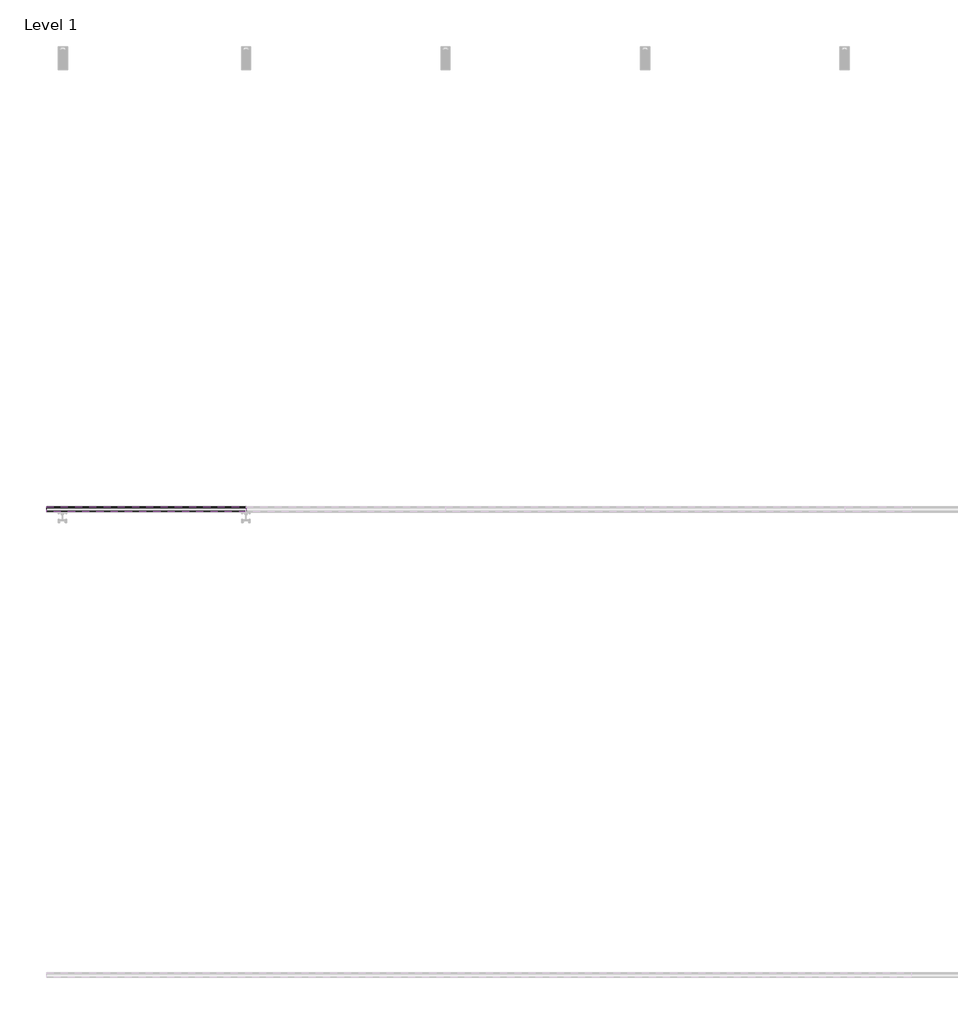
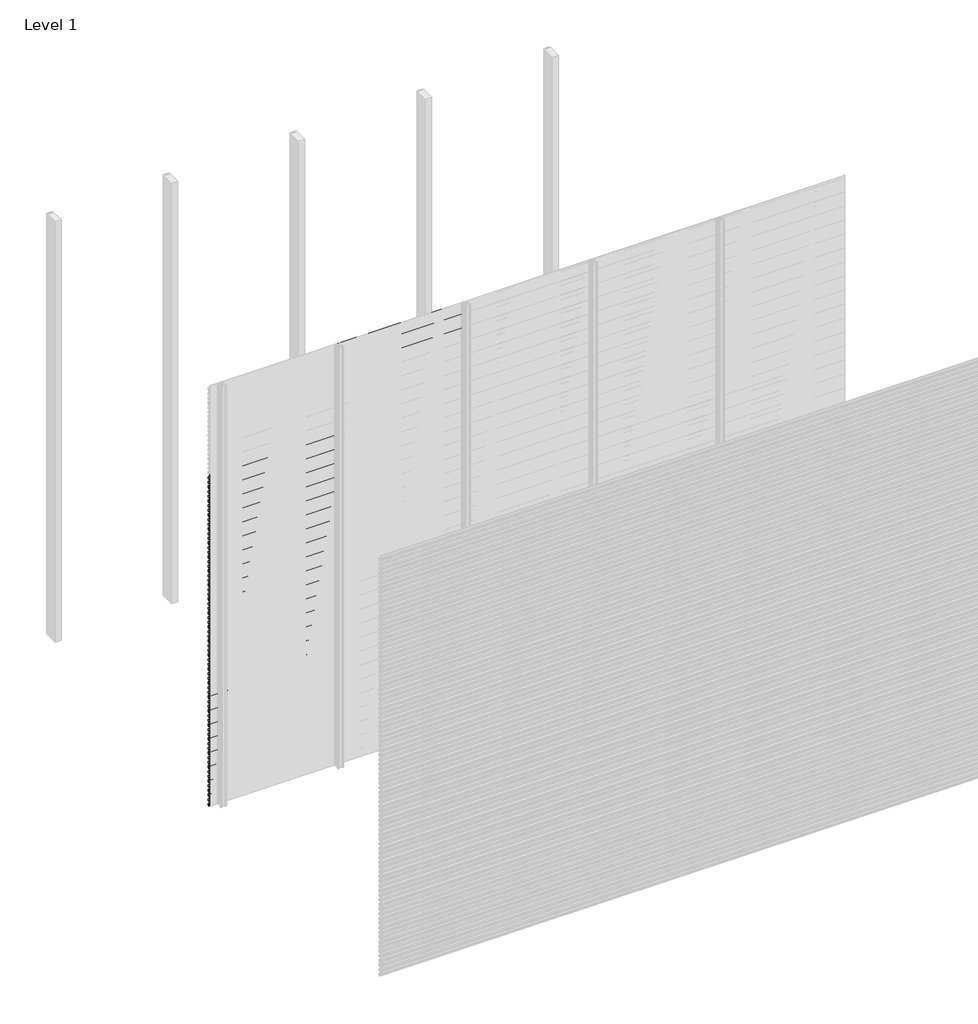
# One storey, part 24 of 96: 77 proxies.
"""IFC4 building model written with IfcOpenShell, lengths in millimetres."""

from ifc_helpers import new_model, si_unit, frame, origin, place, context, project, spatial, polyline, outline, extrude, element, save

model = new_model("IFC4")

# Units and contexts
model_context = context("Model", 3, world=origin())
ifc_project = project(units=[si_unit("LENGTHUNIT", "METRE", prefix="MILLI")], contexts=[model_context])

# Site, building, storey
site = spatial("IfcSite", under=ifc_project)
building = spatial("IfcBuilding", under=site)
storey = spatial("IfcBuildingStorey", under=building, Name="Level 1", Elevation=0.0)

# Proxies
placement = place(None, origin())
element("IfcBuildingElementProxy", 1, Name="Wall Sweeps", at=placement, inside=storey, context=model_context, shape_type="SweptSolid", body=[
    extrude(outline(polyline([(-41977.6, 2339.0655033), (-41977.6, 2324.7779188), (-41982.4114965, 2322.0), (-41982.4114965, 2323.2701706), (-41978.85, 2325.3264016), (-41978.85, 2338.3437382), (-41998.0, 2349.4000799), (-41998.0, 2364.3), (-41996.75, 2364.3), (-41996.75, 2350.1217609), (-41977.6, 2339.0655033)])), frame((0.0, 0.0, 0.0), z_axis=(1.0, 0.0, 0.0), x_axis=(0.0, 1.0, 0.0)), (0.0, 0.0, 1.0), 857.1428571),
])
element("IfcBuildingElementProxy", 2, Name="Wall Sweeps", at=placement, inside=storey, context=model_context, shape_type="SweptSolid", body=[
    extrude(outline(polyline([(-41977.6, 2305.7655033), (-41977.6, 2291.4779188), (-41982.4114965, 2288.7), (-41982.4114965, 2289.9701706), (-41978.85, 2292.0264016), (-41978.85, 2305.0437382), (-41998.0, 2316.1000799), (-41998.0, 2331.0), (-41996.75, 2331.0), (-41996.75, 2316.8217609), (-41977.6, 2305.7655033)])), frame((0.0, 0.0, 0.0), z_axis=(1.0, 0.0, 0.0), x_axis=(0.0, 1.0, 0.0)), (0.0, 0.0, 1.0), 857.1428571),
])
element("IfcBuildingElementProxy", 3, Name="Wall Sweeps", at=placement, inside=storey, context=model_context, shape_type="SweptSolid", body=[
    extrude(outline(polyline([(-41977.6, 2272.4655033), (-41977.6, 2258.1779188), (-41982.4114965, 2255.4), (-41982.4114965, 2256.6701706), (-41978.85, 2258.7264016), (-41978.85, 2271.7437382), (-41998.0, 2282.8000799), (-41998.0, 2297.7), (-41996.75, 2297.7), (-41996.75, 2283.5217609), (-41977.6, 2272.4655033)])), frame((0.0, 0.0, 0.0), z_axis=(1.0, 0.0, 0.0), x_axis=(0.0, 1.0, 0.0)), (0.0, 0.0, 1.0), 857.1428571),
])
element("IfcBuildingElementProxy", 4, Name="Wall Sweeps", at=placement, inside=storey, context=model_context, shape_type="SweptSolid", body=[
    extrude(outline(polyline([(-41977.6, 2239.1655033), (-41977.6, 2224.8779188), (-41982.4114965, 2222.1), (-41982.4114965, 2223.3701706), (-41978.85, 2225.4264016), (-41978.85, 2238.4437382), (-41998.0, 2249.5000799), (-41998.0, 2264.4), (-41996.75, 2264.4), (-41996.75, 2250.2217609), (-41977.6, 2239.1655033)])), frame((0.0, 0.0, 0.0), z_axis=(1.0, 0.0, 0.0), x_axis=(0.0, 1.0, 0.0)), (0.0, 0.0, 1.0), 857.1428571),
])
element("IfcBuildingElementProxy", 5, Name="Wall Sweeps", at=placement, inside=storey, context=model_context, shape_type="SweptSolid", body=[
    extrude(outline(polyline([(-41977.6, 2205.8655033), (-41977.6, 2191.5779188), (-41982.4114965, 2188.8), (-41982.4114965, 2190.0701706), (-41978.85, 2192.1264016), (-41978.85, 2205.1437382), (-41998.0, 2216.2000799), (-41998.0, 2231.1), (-41996.75, 2231.1), (-41996.75, 2216.9217609), (-41977.6, 2205.8655033)])), frame((0.0, 0.0, 0.0), z_axis=(1.0, 0.0, 0.0), x_axis=(0.0, 1.0, 0.0)), (0.0, 0.0, 1.0), 857.1428571),
])
element("IfcBuildingElementProxy", 6, Name="Wall Sweeps", at=placement, inside=storey, context=model_context, shape_type="SweptSolid", body=[
    extrude(outline(polyline([(-41977.6, 2172.5655033), (-41977.6, 2158.2779188), (-41982.4114965, 2155.5), (-41982.4114965, 2156.7701706), (-41978.85, 2158.8264016), (-41978.85, 2171.8437382), (-41998.0, 2182.9000799), (-41998.0, 2197.8), (-41996.75, 2197.8), (-41996.75, 2183.6217609), (-41977.6, 2172.5655033)])), frame((0.0, 0.0, 0.0), z_axis=(1.0, 0.0, 0.0), x_axis=(0.0, 1.0, 0.0)), (0.0, 0.0, 1.0), 857.1428571),
])
element("IfcBuildingElementProxy", 7, Name="Wall Sweeps", at=placement, inside=storey, context=model_context, shape_type="SweptSolid", body=[
    extrude(outline(polyline([(-41977.6, 2139.2655033), (-41977.6, 2124.9779188), (-41982.4114965, 2122.2), (-41982.4114965, 2123.4701706), (-41978.85, 2125.5264016), (-41978.85, 2138.5437382), (-41998.0, 2149.6000799), (-41998.0, 2164.5), (-41996.75, 2164.5), (-41996.75, 2150.3217609), (-41977.6, 2139.2655033)])), frame((0.0, 0.0, 0.0), z_axis=(1.0, 0.0, 0.0), x_axis=(0.0, 1.0, 0.0)), (0.0, 0.0, 1.0), 857.1428571),
])
element("IfcBuildingElementProxy", 8, Name="Wall Sweeps", at=placement, inside=storey, context=model_context, shape_type="SweptSolid", body=[
    extrude(outline(polyline([(-41977.6, 2105.9655033), (-41977.6, 2091.6779188), (-41982.4114965, 2088.9), (-41982.4114965, 2090.1701706), (-41978.85, 2092.2264016), (-41978.85, 2105.2437382), (-41998.0, 2116.3000799), (-41998.0, 2131.2), (-41996.75, 2131.2), (-41996.75, 2117.0217609), (-41977.6, 2105.9655033)])), frame((0.0, 0.0, 0.0), z_axis=(1.0, 0.0, 0.0), x_axis=(0.0, 1.0, 0.0)), (0.0, 0.0, 1.0), 857.1428571),
])
element("IfcBuildingElementProxy", 9, Name="Wall Sweeps", at=placement, inside=storey, context=model_context, shape_type="SweptSolid", body=[
    extrude(outline(polyline([(-41977.6, 2072.6655033), (-41977.6, 2058.3779188), (-41982.4114965, 2055.6), (-41982.4114965, 2056.8701706), (-41978.85, 2058.9264016), (-41978.85, 2071.9437382), (-41998.0, 2083.0000799), (-41998.0, 2097.9), (-41996.75, 2097.9), (-41996.75, 2083.7217609), (-41977.6, 2072.6655033)])), frame((0.0, 0.0, 0.0), z_axis=(1.0, 0.0, 0.0), x_axis=(0.0, 1.0, 0.0)), (0.0, 0.0, 1.0), 857.1428571),
])
element("IfcBuildingElementProxy", 10, Name="Wall Sweeps", at=placement, inside=storey, context=model_context, shape_type="SweptSolid", body=[
    extrude(outline(polyline([(-41977.6, 2039.3655033), (-41977.6, 2025.0779188), (-41982.4114965, 2022.3), (-41982.4114965, 2023.5701706), (-41978.85, 2025.6264016), (-41978.85, 2038.6437382), (-41998.0, 2049.7000799), (-41998.0, 2064.6), (-41996.75, 2064.6), (-41996.75, 2050.4217609), (-41977.6, 2039.3655033)])), frame((0.0, 0.0, 0.0), z_axis=(1.0, 0.0, 0.0), x_axis=(0.0, 1.0, 0.0)), (0.0, 0.0, 1.0), 857.1428571),
])
element("IfcBuildingElementProxy", 11, Name="Wall Sweeps", at=placement, inside=storey, context=model_context, shape_type="SweptSolid", body=[
    extrude(outline(polyline([(-41977.6, 2006.0655033), (-41977.6, 1991.7779188), (-41982.4114965, 1989.0), (-41982.4114965, 1990.2701706), (-41978.85, 1992.3264016), (-41978.85, 2005.3437382), (-41998.0, 2016.4000799), (-41998.0, 2031.3), (-41996.75, 2031.3), (-41996.75, 2017.1217609), (-41977.6, 2006.0655033)])), frame((0.0, 0.0, 0.0), z_axis=(1.0, 0.0, 0.0), x_axis=(0.0, 1.0, 0.0)), (0.0, 0.0, 1.0), 857.1428571),
])
element("IfcBuildingElementProxy", 12, Name="Wall Sweeps", at=placement, inside=storey, context=model_context, shape_type="SweptSolid", body=[
    extrude(outline(polyline([(-41977.6, 1972.7655033), (-41977.6, 1958.4779188), (-41982.4114965, 1955.7), (-41982.4114965, 1956.9701706), (-41978.85, 1959.0264016), (-41978.85, 1972.0437382), (-41998.0, 1983.1000799), (-41998.0, 1998.0), (-41996.75, 1998.0), (-41996.75, 1983.8217609), (-41977.6, 1972.7655033)])), frame((0.0, 0.0, 0.0), z_axis=(1.0, 0.0, 0.0), x_axis=(0.0, 1.0, 0.0)), (0.0, 0.0, 1.0), 857.1428571),
])
element("IfcBuildingElementProxy", 13, Name="Wall Sweeps", at=placement, inside=storey, context=model_context, shape_type="SweptSolid", body=[
    extrude(outline(polyline([(-41977.6, 1939.4655033), (-41977.6, 1925.1779188), (-41982.4114965, 1922.4), (-41982.4114965, 1923.6701706), (-41978.85, 1925.7264016), (-41978.85, 1938.7437382), (-41998.0, 1949.8000799), (-41998.0, 1964.7), (-41996.75, 1964.7), (-41996.75, 1950.5217609), (-41977.6, 1939.4655033)])), frame((0.0, 0.0, 0.0), z_axis=(1.0, 0.0, 0.0), x_axis=(0.0, 1.0, 0.0)), (0.0, 0.0, 1.0), 857.1428571),
])
element("IfcBuildingElementProxy", 14, Name="Wall Sweeps", at=placement, inside=storey, context=model_context, shape_type="SweptSolid", body=[
    extrude(outline(polyline([(-41977.6, 1906.1655033), (-41977.6, 1891.8779188), (-41982.4114965, 1889.1), (-41982.4114965, 1890.3701706), (-41978.85, 1892.4264016), (-41978.85, 1905.4437382), (-41998.0, 1916.5000799), (-41998.0, 1931.4), (-41996.75, 1931.4), (-41996.75, 1917.2217609), (-41977.6, 1906.1655033)])), frame((0.0, 0.0, 0.0), z_axis=(1.0, 0.0, 0.0), x_axis=(0.0, 1.0, 0.0)), (0.0, 0.0, 1.0), 857.1428571),
])
element("IfcBuildingElementProxy", 15, Name="Wall Sweeps", at=placement, inside=storey, context=model_context, shape_type="SweptSolid", body=[
    extrude(outline(polyline([(-41977.6, 1872.8655033), (-41977.6, 1858.5779188), (-41982.4114965, 1855.8), (-41982.4114965, 1857.0701706), (-41978.85, 1859.1264016), (-41978.85, 1872.1437382), (-41998.0, 1883.2000799), (-41998.0, 1898.1), (-41996.75, 1898.1), (-41996.75, 1883.9217609), (-41977.6, 1872.8655033)])), frame((0.0, 0.0, 0.0), z_axis=(1.0, 0.0, 0.0), x_axis=(0.0, 1.0, 0.0)), (0.0, 0.0, 1.0), 857.1428571),
])
element("IfcBuildingElementProxy", 16, Name="Wall Sweeps", at=placement, inside=storey, context=model_context, shape_type="SweptSolid", body=[
    extrude(outline(polyline([(-41977.6, 1839.5655033), (-41977.6, 1825.2779188), (-41982.4114965, 1822.5), (-41982.4114965, 1823.7701706), (-41978.85, 1825.8264016), (-41978.85, 1838.8437382), (-41998.0, 1849.9000799), (-41998.0, 1864.8), (-41996.75, 1864.8), (-41996.75, 1850.6217609), (-41977.6, 1839.5655033)])), frame((0.0, 0.0, 0.0), z_axis=(1.0, 0.0, 0.0), x_axis=(0.0, 1.0, 0.0)), (0.0, 0.0, 1.0), 857.1428571),
])
element("IfcBuildingElementProxy", 17, Name="Wall Sweeps", at=placement, inside=storey, context=model_context, shape_type="SweptSolid", body=[
    extrude(outline(polyline([(-41977.6, 1806.2655033), (-41977.6, 1791.9779188), (-41982.4114965, 1789.2), (-41982.4114965, 1790.4701706), (-41978.85, 1792.5264016), (-41978.85, 1805.5437382), (-41998.0, 1816.6000799), (-41998.0, 1831.5), (-41996.75, 1831.5), (-41996.75, 1817.3217609), (-41977.6, 1806.2655033)])), frame((0.0, 0.0, 0.0), z_axis=(1.0, 0.0, 0.0), x_axis=(0.0, 1.0, 0.0)), (0.0, 0.0, 1.0), 857.1428571),
])
element("IfcBuildingElementProxy", 18, Name="Wall Sweeps", at=placement, inside=storey, context=model_context, shape_type="SweptSolid", body=[
    extrude(outline(polyline([(-41977.6, 1772.9655033), (-41977.6, 1758.6779188), (-41982.4114965, 1755.9), (-41982.4114965, 1757.1701706), (-41978.85, 1759.2264016), (-41978.85, 1772.2437382), (-41998.0, 1783.3000799), (-41998.0, 1798.2), (-41996.75, 1798.2), (-41996.75, 1784.0217609), (-41977.6, 1772.9655033)])), frame((0.0, 0.0, 0.0), z_axis=(1.0, 0.0, 0.0), x_axis=(0.0, 1.0, 0.0)), (0.0, 0.0, 1.0), 857.1428571),
])
element("IfcBuildingElementProxy", 19, Name="Wall Sweeps", at=placement, inside=storey, context=model_context, shape_type="SweptSolid", body=[
    extrude(outline(polyline([(-41977.6, 1739.6655033), (-41977.6, 1725.3779188), (-41982.4114965, 1722.6), (-41982.4114965, 1723.8701706), (-41978.85, 1725.9264016), (-41978.85, 1738.9437382), (-41998.0, 1750.0000799), (-41998.0, 1764.9), (-41996.75, 1764.9), (-41996.75, 1750.7217609), (-41977.6, 1739.6655033)])), frame((0.0, 0.0, 0.0), z_axis=(1.0, 0.0, 0.0), x_axis=(0.0, 1.0, 0.0)), (0.0, 0.0, 1.0), 857.1428571),
])
element("IfcBuildingElementProxy", 20, Name="Wall Sweeps", at=placement, inside=storey, context=model_context, shape_type="SweptSolid", body=[
    extrude(outline(polyline([(-41977.6, 1706.3655033), (-41977.6, 1692.0779188), (-41982.4114965, 1689.3), (-41982.4114965, 1690.5701706), (-41978.85, 1692.6264016), (-41978.85, 1705.6437382), (-41998.0, 1716.7000799), (-41998.0, 1731.6), (-41996.75, 1731.6), (-41996.75, 1717.4217609), (-41977.6, 1706.3655033)])), frame((0.0, 0.0, 0.0), z_axis=(1.0, 0.0, 0.0), x_axis=(0.0, 1.0, 0.0)), (0.0, 0.0, 1.0), 857.1428571),
])
element("IfcBuildingElementProxy", 21, Name="Wall Sweeps", at=placement, inside=storey, context=model_context, shape_type="SweptSolid", body=[
    extrude(outline(polyline([(-41977.6, 1673.0655033), (-41977.6, 1658.7779188), (-41982.4114965, 1656.0), (-41982.4114965, 1657.2701706), (-41978.85, 1659.3264016), (-41978.85, 1672.3437382), (-41998.0, 1683.4000799), (-41998.0, 1698.3), (-41996.75, 1698.3), (-41996.75, 1684.1217609), (-41977.6, 1673.0655033)])), frame((0.0, 0.0, 0.0), z_axis=(1.0, 0.0, 0.0), x_axis=(0.0, 1.0, 0.0)), (0.0, 0.0, 1.0), 857.1428571),
])
element("IfcBuildingElementProxy", 22, Name="Wall Sweeps", at=placement, inside=storey, context=model_context, shape_type="SweptSolid", body=[
    extrude(outline(polyline([(-41977.6, 1639.7655033), (-41977.6, 1625.4779188), (-41982.4114965, 1622.7), (-41982.4114965, 1623.9701706), (-41978.85, 1626.0264016), (-41978.85, 1639.0437382), (-41998.0, 1650.1000799), (-41998.0, 1665.0), (-41996.75, 1665.0), (-41996.75, 1650.8217609), (-41977.6, 1639.7655033)])), frame((0.0, 0.0, 0.0), z_axis=(1.0, 0.0, 0.0), x_axis=(0.0, 1.0, 0.0)), (0.0, 0.0, 1.0), 857.1428571),
])
element("IfcBuildingElementProxy", 23, Name="Wall Sweeps", at=placement, inside=storey, context=model_context, shape_type="SweptSolid", body=[
    extrude(outline(polyline([(-41977.6, 1606.4655033), (-41977.6, 1592.1779188), (-41982.4114965, 1589.4), (-41982.4114965, 1590.6701706), (-41978.85, 1592.7264016), (-41978.85, 1605.7437382), (-41998.0, 1616.8000799), (-41998.0, 1631.7), (-41996.75, 1631.7), (-41996.75, 1617.5217609), (-41977.6, 1606.4655033)])), frame((0.0, 0.0, 0.0), z_axis=(1.0, 0.0, 0.0), x_axis=(0.0, 1.0, 0.0)), (0.0, 0.0, 1.0), 857.1428571),
])
element("IfcBuildingElementProxy", 24, Name="Wall Sweeps", at=placement, inside=storey, context=model_context, shape_type="SweptSolid", body=[
    extrude(outline(polyline([(-41977.6, 1573.1655033), (-41977.6, 1558.8779188), (-41982.4114965, 1556.1), (-41982.4114965, 1557.3701706), (-41978.85, 1559.4264016), (-41978.85, 1572.4437382), (-41998.0, 1583.5000799), (-41998.0, 1598.4), (-41996.75, 1598.4), (-41996.75, 1584.2217609), (-41977.6, 1573.1655033)])), frame((0.0, 0.0, 0.0), z_axis=(1.0, 0.0, 0.0), x_axis=(0.0, 1.0, 0.0)), (0.0, 0.0, 1.0), 857.1428571),
])
element("IfcBuildingElementProxy", 25, Name="Wall Sweeps", at=placement, inside=storey, context=model_context, shape_type="SweptSolid", body=[
    extrude(outline(polyline([(-41977.6, 1539.8655033), (-41977.6, 1525.5779188), (-41982.4114965, 1522.8), (-41982.4114965, 1524.0701706), (-41978.85, 1526.1264016), (-41978.85, 1539.1437382), (-41998.0, 1550.2000799), (-41998.0, 1565.1), (-41996.75, 1565.1), (-41996.75, 1550.9217609), (-41977.6, 1539.8655033)])), frame((0.0, 0.0, 0.0), z_axis=(1.0, 0.0, 0.0), x_axis=(0.0, 1.0, 0.0)), (0.0, 0.0, 1.0), 857.1428571),
])
element("IfcBuildingElementProxy", 26, Name="Wall Sweeps", at=placement, inside=storey, context=model_context, shape_type="SweptSolid", body=[
    extrude(outline(polyline([(-41977.6, 1506.5655033), (-41977.6, 1492.2779188), (-41982.4114965, 1489.5), (-41982.4114965, 1490.7701706), (-41978.85, 1492.8264016), (-41978.85, 1505.8437382), (-41998.0, 1516.9000799), (-41998.0, 1531.8), (-41996.75, 1531.8), (-41996.75, 1517.6217609), (-41977.6, 1506.5655033)])), frame((0.0, 0.0, 0.0), z_axis=(1.0, 0.0, 0.0), x_axis=(0.0, 1.0, 0.0)), (0.0, 0.0, 1.0), 857.1428571),
])
element("IfcBuildingElementProxy", 27, Name="Wall Sweeps", at=placement, inside=storey, context=model_context, shape_type="SweptSolid", body=[
    extrude(outline(polyline([(-41977.6, 1473.2655033), (-41977.6, 1458.9779188), (-41982.4114965, 1456.2), (-41982.4114965, 1457.4701706), (-41978.85, 1459.5264016), (-41978.85, 1472.5437382), (-41998.0, 1483.6000799), (-41998.0, 1498.5), (-41996.75, 1498.5), (-41996.75, 1484.3217609), (-41977.6, 1473.2655033)])), frame((0.0, 0.0, 0.0), z_axis=(1.0, 0.0, 0.0), x_axis=(0.0, 1.0, 0.0)), (0.0, 0.0, 1.0), 857.1428571),
])
element("IfcBuildingElementProxy", 28, Name="Wall Sweeps", at=placement, inside=storey, context=model_context, shape_type="SweptSolid", body=[
    extrude(outline(polyline([(-41977.6, 1439.9655033), (-41977.6, 1425.6779188), (-41982.4114965, 1422.9), (-41982.4114965, 1424.1701706), (-41978.85, 1426.2264016), (-41978.85, 1439.2437382), (-41998.0, 1450.3000799), (-41998.0, 1465.2), (-41996.75, 1465.2), (-41996.75, 1451.0217609), (-41977.6, 1439.9655033)])), frame((0.0, 0.0, 0.0), z_axis=(1.0, 0.0, 0.0), x_axis=(0.0, 1.0, 0.0)), (0.0, 0.0, 1.0), 857.1428571),
])
element("IfcBuildingElementProxy", 29, Name="Wall Sweeps", at=placement, inside=storey, context=model_context, shape_type="SweptSolid", body=[
    extrude(outline(polyline([(-41977.6, 1406.6655033), (-41977.6, 1392.3779188), (-41982.4114965, 1389.6), (-41982.4114965, 1390.8701706), (-41978.85, 1392.9264016), (-41978.85, 1405.9437382), (-41998.0, 1417.0000799), (-41998.0, 1431.9), (-41996.75, 1431.9), (-41996.75, 1417.7217609), (-41977.6, 1406.6655033)])), frame((0.0, 0.0, 0.0), z_axis=(1.0, 0.0, 0.0), x_axis=(0.0, 1.0, 0.0)), (0.0, 0.0, 1.0), 857.1428571),
])
element("IfcBuildingElementProxy", 30, Name="Wall Sweeps", at=placement, inside=storey, context=model_context, shape_type="SweptSolid", body=[
    extrude(outline(polyline([(-41977.6, 1373.3655033), (-41977.6, 1359.0779188), (-41982.4114965, 1356.3), (-41982.4114965, 1357.5701706), (-41978.85, 1359.6264016), (-41978.85, 1372.6437382), (-41998.0, 1383.7000799), (-41998.0, 1398.6), (-41996.75, 1398.6), (-41996.75, 1384.4217609), (-41977.6, 1373.3655033)])), frame((0.0, 0.0, 0.0), z_axis=(1.0, 0.0, 0.0), x_axis=(0.0, 1.0, 0.0)), (0.0, 0.0, 1.0), 857.1428571),
])
element("IfcBuildingElementProxy", 31, Name="Wall Sweeps", at=placement, inside=storey, context=model_context, shape_type="SweptSolid", body=[
    extrude(outline(polyline([(-41977.6, 1340.0655033), (-41977.6, 1325.7779188), (-41982.4114965, 1323.0), (-41982.4114965, 1324.2701706), (-41978.85, 1326.3264016), (-41978.85, 1339.3437382), (-41998.0, 1350.4000799), (-41998.0, 1365.3), (-41996.75, 1365.3), (-41996.75, 1351.1217609), (-41977.6, 1340.0655033)])), frame((0.0, 0.0, 0.0), z_axis=(1.0, 0.0, 0.0), x_axis=(0.0, 1.0, 0.0)), (0.0, 0.0, 1.0), 857.1428571),
])
element("IfcBuildingElementProxy", 32, Name="Wall Sweeps", at=placement, inside=storey, context=model_context, shape_type="SweptSolid", body=[
    extrude(outline(polyline([(-41977.6, 1306.7655033), (-41977.6, 1292.4779188), (-41982.4114965, 1289.7), (-41982.4114965, 1290.9701706), (-41978.85, 1293.0264016), (-41978.85, 1306.0437382), (-41998.0, 1317.1000799), (-41998.0, 1332.0), (-41996.75, 1332.0), (-41996.75, 1317.8217609), (-41977.6, 1306.7655033)])), frame((0.0, 0.0, 0.0), z_axis=(1.0, 0.0, 0.0), x_axis=(0.0, 1.0, 0.0)), (0.0, 0.0, 1.0), 857.1428571),
])
element("IfcBuildingElementProxy", 33, Name="Wall Sweeps", at=placement, inside=storey, context=model_context, shape_type="SweptSolid", body=[
    extrude(outline(polyline([(-41977.6, 1273.4655033), (-41977.6, 1259.1779188), (-41982.4114965, 1256.4), (-41982.4114965, 1257.6701706), (-41978.85, 1259.7264016), (-41978.85, 1272.7437382), (-41998.0, 1283.8000799), (-41998.0, 1298.7), (-41996.75, 1298.7), (-41996.75, 1284.5217609), (-41977.6, 1273.4655033)])), frame((0.0, 0.0, 0.0), z_axis=(1.0, 0.0, 0.0), x_axis=(0.0, 1.0, 0.0)), (0.0, 0.0, 1.0), 857.1428571),
])
element("IfcBuildingElementProxy", 34, Name="Wall Sweeps", at=placement, inside=storey, context=model_context, shape_type="SweptSolid", body=[
    extrude(outline(polyline([(-41977.6, 1240.1655033), (-41977.6, 1225.8779188), (-41982.4114965, 1223.1), (-41982.4114965, 1224.3701706), (-41978.85, 1226.4264016), (-41978.85, 1239.4437382), (-41998.0, 1250.5000799), (-41998.0, 1265.4), (-41996.75, 1265.4), (-41996.75, 1251.2217609), (-41977.6, 1240.1655033)])), frame((0.0, 0.0, 0.0), z_axis=(1.0, 0.0, 0.0), x_axis=(0.0, 1.0, 0.0)), (0.0, 0.0, 1.0), 857.1428571),
])
element("IfcBuildingElementProxy", 35, Name="Wall Sweeps", at=placement, inside=storey, context=model_context, shape_type="SweptSolid", body=[
    extrude(outline(polyline([(-41977.6, 1206.8655033), (-41977.6, 1192.5779188), (-41982.4114965, 1189.8), (-41982.4114965, 1191.0701706), (-41978.85, 1193.1264016), (-41978.85, 1206.1437382), (-41998.0, 1217.2000799), (-41998.0, 1232.1), (-41996.75, 1232.1), (-41996.75, 1217.9217609), (-41977.6, 1206.8655033)])), frame((0.0, 0.0, 0.0), z_axis=(1.0, 0.0, 0.0), x_axis=(0.0, 1.0, 0.0)), (0.0, 0.0, 1.0), 857.1428571),
])
element("IfcBuildingElementProxy", 36, Name="Wall Sweeps", at=placement, inside=storey, context=model_context, shape_type="SweptSolid", body=[
    extrude(outline(polyline([(-41977.6, 1173.5655033), (-41977.6, 1159.2779188), (-41982.4114965, 1156.5), (-41982.4114965, 1157.7701706), (-41978.85, 1159.8264016), (-41978.85, 1172.8437382), (-41998.0, 1183.9000799), (-41998.0, 1198.8), (-41996.75, 1198.8), (-41996.75, 1184.6217609), (-41977.6, 1173.5655033)])), frame((0.0, 0.0, 0.0), z_axis=(1.0, 0.0, 0.0), x_axis=(0.0, 1.0, 0.0)), (0.0, 0.0, 1.0), 857.1428571),
])
element("IfcBuildingElementProxy", 37, Name="Wall Sweeps", at=placement, inside=storey, context=model_context, shape_type="SweptSolid", body=[
    extrude(outline(polyline([(-41977.6, 1140.2655033), (-41977.6, 1125.9779188), (-41982.4114965, 1123.2), (-41982.4114965, 1124.4701706), (-41978.85, 1126.5264016), (-41978.85, 1139.5437382), (-41998.0, 1150.6000799), (-41998.0, 1165.5), (-41996.75, 1165.5), (-41996.75, 1151.3217609), (-41977.6, 1140.2655033)])), frame((0.0, 0.0, 0.0), z_axis=(1.0, 0.0, 0.0), x_axis=(0.0, 1.0, 0.0)), (0.0, 0.0, 1.0), 857.1428571),
])
element("IfcBuildingElementProxy", 38, Name="Wall Sweeps", at=placement, inside=storey, context=model_context, shape_type="SweptSolid", body=[
    extrude(outline(polyline([(-41977.6, 1106.9655033), (-41977.6, 1092.6779188), (-41982.4114965, 1089.9), (-41982.4114965, 1091.1701706), (-41978.85, 1093.2264016), (-41978.85, 1106.2437382), (-41998.0, 1117.3000799), (-41998.0, 1132.2), (-41996.75, 1132.2), (-41996.75, 1118.0217609), (-41977.6, 1106.9655033)])), frame((0.0, 0.0, 0.0), z_axis=(1.0, 0.0, 0.0), x_axis=(0.0, 1.0, 0.0)), (0.0, 0.0, 1.0), 857.1428571),
])
element("IfcBuildingElementProxy", 39, Name="Wall Sweeps", at=placement, inside=storey, context=model_context, shape_type="SweptSolid", body=[
    extrude(outline(polyline([(-41977.6, 1073.6655033), (-41977.6, 1059.3779188), (-41982.4114965, 1056.6), (-41982.4114965, 1057.8701706), (-41978.85, 1059.9264016), (-41978.85, 1072.9437382), (-41998.0, 1084.0000799), (-41998.0, 1098.9), (-41996.75, 1098.9), (-41996.75, 1084.7217609), (-41977.6, 1073.6655033)])), frame((0.0, 0.0, 0.0), z_axis=(1.0, 0.0, 0.0), x_axis=(0.0, 1.0, 0.0)), (0.0, 0.0, 1.0), 857.1428571),
])
element("IfcBuildingElementProxy", 40, Name="Wall Sweeps", at=placement, inside=storey, context=model_context, shape_type="SweptSolid", body=[
    extrude(outline(polyline([(-41977.6, 1040.3655033), (-41977.6, 1026.0779188), (-41982.4114965, 1023.3), (-41982.4114965, 1024.5701706), (-41978.85, 1026.6264016), (-41978.85, 1039.6437382), (-41998.0, 1050.7000799), (-41998.0, 1065.6), (-41996.75, 1065.6), (-41996.75, 1051.4217609), (-41977.6, 1040.3655033)])), frame((0.0, 0.0, 0.0), z_axis=(1.0, 0.0, 0.0), x_axis=(0.0, 1.0, 0.0)), (0.0, 0.0, 1.0), 857.1428571),
])
element("IfcBuildingElementProxy", 41, Name="Wall Sweeps", at=placement, inside=storey, context=model_context, shape_type="SweptSolid", body=[
    extrude(outline(polyline([(-41977.6, 1007.0655033), (-41977.6, 992.7779188), (-41982.4114965, 990.0), (-41982.4114965, 991.2701706), (-41978.85, 993.3264016), (-41978.85, 1006.3437382), (-41998.0, 1017.4000799), (-41998.0, 1032.3), (-41996.75, 1032.3), (-41996.75, 1018.1217609), (-41977.6, 1007.0655033)])), frame((0.0, 0.0, 0.0), z_axis=(1.0, 0.0, 0.0), x_axis=(0.0, 1.0, 0.0)), (0.0, 0.0, 1.0), 857.1428571),
])
element("IfcBuildingElementProxy", 42, Name="Wall Sweeps", at=placement, inside=storey, context=model_context, shape_type="SweptSolid", body=[
    extrude(outline(polyline([(-41977.6, 973.7655033), (-41977.6, 959.4779188), (-41982.4114965, 956.7), (-41982.4114965, 957.9701706), (-41978.85, 960.0264016), (-41978.85, 973.0437382), (-41998.0, 984.1000799), (-41998.0, 999.0), (-41996.75, 999.0), (-41996.75, 984.8217609), (-41977.6, 973.7655033)])), frame((0.0, 0.0, 0.0), z_axis=(1.0, 0.0, 0.0), x_axis=(0.0, 1.0, 0.0)), (0.0, 0.0, 1.0), 857.1428571),
])
element("IfcBuildingElementProxy", 43, Name="Wall Sweeps", at=placement, inside=storey, context=model_context, shape_type="SweptSolid", body=[
    extrude(outline(polyline([(-41977.6, 940.4655033), (-41977.6, 926.1779188), (-41982.4114965, 923.4), (-41982.4114965, 924.6701706), (-41978.85, 926.7264016), (-41978.85, 939.7437382), (-41998.0, 950.8000799), (-41998.0, 965.7), (-41996.75, 965.7), (-41996.75, 951.5217609), (-41977.6, 940.4655033)])), frame((0.0, 0.0, 0.0), z_axis=(1.0, 0.0, 0.0), x_axis=(0.0, 1.0, 0.0)), (0.0, 0.0, 1.0), 857.1428571),
])
element("IfcBuildingElementProxy", 44, Name="Wall Sweeps", at=placement, inside=storey, context=model_context, shape_type="SweptSolid", body=[
    extrude(outline(polyline([(-41977.6, 907.1655033), (-41977.6, 892.8779188), (-41982.4114965, 890.1), (-41982.4114965, 891.3701706), (-41978.85, 893.4264016), (-41978.85, 906.4437382), (-41998.0, 917.5000799), (-41998.0, 932.4), (-41996.75, 932.4), (-41996.75, 918.2217609), (-41977.6, 907.1655033)])), frame((0.0, 0.0, 0.0), z_axis=(1.0, 0.0, 0.0), x_axis=(0.0, 1.0, 0.0)), (0.0, 0.0, 1.0), 857.1428571),
])
element("IfcBuildingElementProxy", 45, Name="Wall Sweeps", at=placement, inside=storey, context=model_context, shape_type="SweptSolid", body=[
    extrude(outline(polyline([(-41977.6, 873.8655033), (-41977.6, 859.5779188), (-41982.4114965, 856.8), (-41982.4114965, 858.0701706), (-41978.85, 860.1264016), (-41978.85, 873.1437382), (-41998.0, 884.2000799), (-41998.0, 899.1), (-41996.75, 899.1), (-41996.75, 884.9217609), (-41977.6, 873.8655033)])), frame((0.0, 0.0, 0.0), z_axis=(1.0, 0.0, 0.0), x_axis=(0.0, 1.0, 0.0)), (0.0, 0.0, 1.0), 857.1428571),
])
element("IfcBuildingElementProxy", 46, Name="Wall Sweeps", at=placement, inside=storey, context=model_context, shape_type="SweptSolid", body=[
    extrude(outline(polyline([(-41977.6, 840.5655033), (-41977.6, 826.2779188), (-41982.4114965, 823.5), (-41982.4114965, 824.7701706), (-41978.85, 826.8264016), (-41978.85, 839.8437382), (-41998.0, 850.9000799), (-41998.0, 865.8), (-41996.75, 865.8), (-41996.75, 851.6217609), (-41977.6, 840.5655033)])), frame((0.0, 0.0, 0.0), z_axis=(1.0, 0.0, 0.0), x_axis=(0.0, 1.0, 0.0)), (0.0, 0.0, 1.0), 857.1428571),
])
element("IfcBuildingElementProxy", 47, Name="Wall Sweeps", at=placement, inside=storey, context=model_context, shape_type="SweptSolid", body=[
    extrude(outline(polyline([(-41977.6, 807.2655033), (-41977.6, 792.9779188), (-41982.4114965, 790.2), (-41982.4114965, 791.4701706), (-41978.85, 793.5264016), (-41978.85, 806.5437382), (-41998.0, 817.6000799), (-41998.0, 832.5), (-41996.75, 832.5), (-41996.75, 818.3217609), (-41977.6, 807.2655033)])), frame((0.0, 0.0, 0.0), z_axis=(1.0, 0.0, 0.0), x_axis=(0.0, 1.0, 0.0)), (0.0, 0.0, 1.0), 857.1428571),
])
element("IfcBuildingElementProxy", 48, Name="Wall Sweeps", at=placement, inside=storey, context=model_context, shape_type="SweptSolid", body=[
    extrude(outline(polyline([(-41977.6, 773.9655033), (-41977.6, 759.6779188), (-41982.4114965, 756.9), (-41982.4114965, 758.1701706), (-41978.85, 760.2264016), (-41978.85, 773.2437382), (-41998.0, 784.3000799), (-41998.0, 799.2), (-41996.75, 799.2), (-41996.75, 785.0217609), (-41977.6, 773.9655033)])), frame((0.0, 0.0, 0.0), z_axis=(1.0, 0.0, 0.0), x_axis=(0.0, 1.0, 0.0)), (0.0, 0.0, 1.0), 857.1428571),
])
element("IfcBuildingElementProxy", 49, Name="Wall Sweeps", at=placement, inside=storey, context=model_context, shape_type="SweptSolid", body=[
    extrude(outline(polyline([(-41977.6, 740.6655033), (-41977.6, 726.3779188), (-41982.4114965, 723.6), (-41982.4114965, 724.8701706), (-41978.85, 726.9264016), (-41978.85, 739.9437382), (-41998.0, 751.0000799), (-41998.0, 765.9), (-41996.75, 765.9), (-41996.75, 751.7217609), (-41977.6, 740.6655033)])), frame((0.0, 0.0, 0.0), z_axis=(1.0, 0.0, 0.0), x_axis=(0.0, 1.0, 0.0)), (0.0, 0.0, 1.0), 857.1428571),
])
element("IfcBuildingElementProxy", 50, Name="Wall Sweeps", at=placement, inside=storey, context=model_context, shape_type="SweptSolid", body=[
    extrude(outline(polyline([(-41977.6, 707.3655033), (-41977.6, 693.0779188), (-41982.4114965, 690.3), (-41982.4114965, 691.5701706), (-41978.85, 693.6264016), (-41978.85, 706.6437382), (-41998.0, 717.7000799), (-41998.0, 732.6), (-41996.75, 732.6), (-41996.75, 718.4217609), (-41977.6, 707.3655033)])), frame((0.0, 0.0, 0.0), z_axis=(1.0, 0.0, 0.0), x_axis=(0.0, 1.0, 0.0)), (0.0, 0.0, 1.0), 857.1428571),
])
element("IfcBuildingElementProxy", 51, Name="Wall Sweeps", at=placement, inside=storey, context=model_context, shape_type="SweptSolid", body=[
    extrude(outline(polyline([(-41977.6, 674.0655033), (-41977.6, 659.7779188), (-41982.4114965, 657.0), (-41982.4114965, 658.2701706), (-41978.85, 660.3264016), (-41978.85, 673.3437382), (-41998.0, 684.4000799), (-41998.0, 699.3), (-41996.75, 699.3), (-41996.75, 685.1217609), (-41977.6, 674.0655033)])), frame((0.0, 0.0, 0.0), z_axis=(1.0, 0.0, 0.0), x_axis=(0.0, 1.0, 0.0)), (0.0, 0.0, 1.0), 857.1428571),
])
element("IfcBuildingElementProxy", 52, Name="Wall Sweeps", at=placement, inside=storey, context=model_context, shape_type="SweptSolid", body=[
    extrude(outline(polyline([(-41977.6, 640.7655033), (-41977.6, 626.4779188), (-41982.4114965, 623.7), (-41982.4114965, 624.9701706), (-41978.85, 627.0264016), (-41978.85, 640.0437382), (-41998.0, 651.1000799), (-41998.0, 666.0), (-41996.75, 666.0), (-41996.75, 651.8217609), (-41977.6, 640.7655033)])), frame((0.0, 0.0, 0.0), z_axis=(1.0, 0.0, 0.0), x_axis=(0.0, 1.0, 0.0)), (0.0, 0.0, 1.0), 857.1428571),
])
element("IfcBuildingElementProxy", 53, Name="Wall Sweeps", at=placement, inside=storey, context=model_context, shape_type="SweptSolid", body=[
    extrude(outline(polyline([(-41977.6, 607.4655033), (-41977.6, 593.1779188), (-41982.4114965, 590.4), (-41982.4114965, 591.6701706), (-41978.85, 593.7264016), (-41978.85, 606.7437382), (-41998.0, 617.8000799), (-41998.0, 632.7), (-41996.75, 632.7), (-41996.75, 618.5217609), (-41977.6, 607.4655033)])), frame((0.0, 0.0, 0.0), z_axis=(1.0, 0.0, 0.0), x_axis=(0.0, 1.0, 0.0)), (0.0, 0.0, 1.0), 857.1428571),
])
element("IfcBuildingElementProxy", 54, Name="Wall Sweeps", at=placement, inside=storey, context=model_context, shape_type="SweptSolid", body=[
    extrude(outline(polyline([(-41977.6, 574.1655033), (-41977.6, 559.8779188), (-41982.4114965, 557.1), (-41982.4114965, 558.3701706), (-41978.85, 560.4264016), (-41978.85, 573.4437382), (-41998.0, 584.5000799), (-41998.0, 599.4), (-41996.75, 599.4), (-41996.75, 585.2217609), (-41977.6, 574.1655033)])), frame((0.0, 0.0, 0.0), z_axis=(1.0, 0.0, 0.0), x_axis=(0.0, 1.0, 0.0)), (0.0, 0.0, 1.0), 857.1428571),
])
element("IfcBuildingElementProxy", 55, Name="Wall Sweeps", at=placement, inside=storey, context=model_context, shape_type="SweptSolid", body=[
    extrude(outline(polyline([(-41977.6, 540.8655033), (-41977.6, 526.5779188), (-41982.4114965, 523.8), (-41982.4114965, 525.0701706), (-41978.85, 527.1264016), (-41978.85, 540.1437382), (-41998.0, 551.2000799), (-41998.0, 566.1), (-41996.75, 566.1), (-41996.75, 551.9217609), (-41977.6, 540.8655033)])), frame((0.0, 0.0, 0.0), z_axis=(1.0, 0.0, 0.0), x_axis=(0.0, 1.0, 0.0)), (0.0, 0.0, 1.0), 857.1428571),
])
element("IfcBuildingElementProxy", 56, Name="Wall Sweeps", at=placement, inside=storey, context=model_context, shape_type="SweptSolid", body=[
    extrude(outline(polyline([(-41977.6, 507.5655033), (-41977.6, 493.2779188), (-41982.4114965, 490.5), (-41982.4114965, 491.7701706), (-41978.85, 493.8264016), (-41978.85, 506.8437382), (-41998.0, 517.9000799), (-41998.0, 532.8), (-41996.75, 532.8), (-41996.75, 518.6217609), (-41977.6, 507.5655033)])), frame((0.0, 0.0, 0.0), z_axis=(1.0, 0.0, 0.0), x_axis=(0.0, 1.0, 0.0)), (0.0, 0.0, 1.0), 857.1428571),
])
element("IfcBuildingElementProxy", 57, Name="Wall Sweeps", at=placement, inside=storey, context=model_context, shape_type="SweptSolid", body=[
    extrude(outline(polyline([(-41977.6, 474.2655033), (-41977.6, 459.9779188), (-41982.4114965, 457.2), (-41982.4114965, 458.4701706), (-41978.85, 460.5264016), (-41978.85, 473.5437382), (-41998.0, 484.6000799), (-41998.0, 499.5), (-41996.75, 499.5), (-41996.75, 485.3217609), (-41977.6, 474.2655033)])), frame((0.0, 0.0, 0.0), z_axis=(1.0, 0.0, 0.0), x_axis=(0.0, 1.0, 0.0)), (0.0, 0.0, 1.0), 857.1428571),
])
element("IfcBuildingElementProxy", 58, Name="Wall Sweeps", at=placement, inside=storey, context=model_context, shape_type="SweptSolid", body=[
    extrude(outline(polyline([(-41977.6, 440.9655033), (-41977.6, 426.6779188), (-41982.4114965, 423.9), (-41982.4114965, 425.1701706), (-41978.85, 427.2264016), (-41978.85, 440.2437382), (-41998.0, 451.3000799), (-41998.0, 466.2), (-41996.75, 466.2), (-41996.75, 452.0217609), (-41977.6, 440.9655033)])), frame((0.0, 0.0, 0.0), z_axis=(1.0, 0.0, 0.0), x_axis=(0.0, 1.0, 0.0)), (0.0, 0.0, 1.0), 857.1428571),
])
element("IfcBuildingElementProxy", 59, Name="Wall Sweeps", at=placement, inside=storey, context=model_context, shape_type="SweptSolid", body=[
    extrude(outline(polyline([(-41977.6, 407.6655033), (-41977.6, 393.3779188), (-41982.4114965, 390.6), (-41982.4114965, 391.8701706), (-41978.85, 393.9264016), (-41978.85, 406.9437382), (-41998.0, 418.0000799), (-41998.0, 432.9), (-41996.75, 432.9), (-41996.75, 418.7217609), (-41977.6, 407.6655033)])), frame((0.0, 0.0, 0.0), z_axis=(1.0, 0.0, 0.0), x_axis=(0.0, 1.0, 0.0)), (0.0, 0.0, 1.0), 857.1428571),
])
element("IfcBuildingElementProxy", 60, Name="Wall Sweeps", at=placement, inside=storey, context=model_context, shape_type="SweptSolid", body=[
    extrude(outline(polyline([(-41977.6, 374.3655033), (-41977.6, 360.0779188), (-41982.4114965, 357.3), (-41982.4114965, 358.5701706), (-41978.85, 360.6264016), (-41978.85, 373.6437382), (-41998.0, 384.7000799), (-41998.0, 399.6), (-41996.75, 399.6), (-41996.75, 385.4217609), (-41977.6, 374.3655033)])), frame((0.0, 0.0, 0.0), z_axis=(1.0, 0.0, 0.0), x_axis=(0.0, 1.0, 0.0)), (0.0, 0.0, 1.0), 857.1428571),
])
element("IfcBuildingElementProxy", 61, Name="Wall Sweeps", at=placement, inside=storey, context=model_context, shape_type="SweptSolid", body=[
    extrude(outline(polyline([(-41977.6, 341.0655033), (-41977.6, 326.7779188), (-41982.4114965, 324.0), (-41982.4114965, 325.2701706), (-41978.85, 327.3264016), (-41978.85, 340.3437382), (-41998.0, 351.4000799), (-41998.0, 366.3), (-41996.75, 366.3), (-41996.75, 352.1217609), (-41977.6, 341.0655033)])), frame((0.0, 0.0, 0.0), z_axis=(1.0, 0.0, 0.0), x_axis=(0.0, 1.0, 0.0)), (0.0, 0.0, 1.0), 857.1428571),
])
element("IfcBuildingElementProxy", 62, Name="Wall Sweeps", at=placement, inside=storey, context=model_context, shape_type="SweptSolid", body=[
    extrude(outline(polyline([(-41977.6, 307.7655033), (-41977.6, 293.4779188), (-41982.4114965, 290.7), (-41982.4114965, 291.9701706), (-41978.85, 294.0264016), (-41978.85, 307.0437382), (-41998.0, 318.1000799), (-41998.0, 333.0), (-41996.75, 333.0), (-41996.75, 318.8217609), (-41977.6, 307.7655033)])), frame((0.0, 0.0, 0.0), z_axis=(1.0, 0.0, 0.0), x_axis=(0.0, 1.0, 0.0)), (0.0, 0.0, 1.0), 857.1428571),
])
element("IfcBuildingElementProxy", 63, Name="Wall Sweeps", at=placement, inside=storey, context=model_context, shape_type="SweptSolid", body=[
    extrude(outline(polyline([(-41977.6, 274.4655033), (-41977.6, 260.1779188), (-41982.4114965, 257.4), (-41982.4114965, 258.6701706), (-41978.85, 260.7264016), (-41978.85, 273.7437382), (-41998.0, 284.8000799), (-41998.0, 299.7), (-41996.75, 299.7), (-41996.75, 285.5217609), (-41977.6, 274.4655033)])), frame((0.0, 0.0, 0.0), z_axis=(1.0, 0.0, 0.0), x_axis=(0.0, 1.0, 0.0)), (0.0, 0.0, 1.0), 857.1428571),
])
element("IfcBuildingElementProxy", 64, Name="Wall Sweeps", at=placement, inside=storey, context=model_context, shape_type="SweptSolid", body=[
    extrude(outline(polyline([(-41977.6, 241.1655033), (-41977.6, 226.8779188), (-41982.4114965, 224.1), (-41982.4114965, 225.3701706), (-41978.85, 227.4264016), (-41978.85, 240.4437382), (-41998.0, 251.5000799), (-41998.0, 266.4), (-41996.75, 266.4), (-41996.75, 252.2217609), (-41977.6, 241.1655033)])), frame((0.0, 0.0, 0.0), z_axis=(1.0, 0.0, 0.0), x_axis=(0.0, 1.0, 0.0)), (0.0, 0.0, 1.0), 857.1428571),
])
element("IfcBuildingElementProxy", 65, Name="Wall Sweeps", at=placement, inside=storey, context=model_context, shape_type="SweptSolid", body=[
    extrude(outline(polyline([(-41977.6, 207.8655033), (-41977.6, 193.5779188), (-41982.4114965, 190.8), (-41982.4114965, 192.0701706), (-41978.85, 194.1264016), (-41978.85, 207.1437382), (-41998.0, 218.2000799), (-41998.0, 233.1), (-41996.75, 233.1), (-41996.75, 218.9217609), (-41977.6, 207.8655033)])), frame((0.0, 0.0, 0.0), z_axis=(1.0, 0.0, 0.0), x_axis=(0.0, 1.0, 0.0)), (0.0, 0.0, 1.0), 857.1428571),
])
element("IfcBuildingElementProxy", 66, Name="Wall Sweeps", at=placement, inside=storey, context=model_context, shape_type="SweptSolid", body=[
    extrude(outline(polyline([(-41977.6, 174.5655033), (-41977.6, 160.2779188), (-41982.4114965, 157.5), (-41982.4114965, 158.7701706), (-41978.85, 160.8264016), (-41978.85, 173.8437382), (-41998.0, 184.9000799), (-41998.0, 199.8), (-41996.75, 199.8), (-41996.75, 185.6217609), (-41977.6, 174.5655033)])), frame((0.0, 0.0, 0.0), z_axis=(1.0, 0.0, 0.0), x_axis=(0.0, 1.0, 0.0)), (0.0, 0.0, 1.0), 857.1428571),
])
element("IfcBuildingElementProxy", 67, Name="Wall Sweeps", at=placement, inside=storey, context=model_context, shape_type="SweptSolid", body=[
    extrude(outline(polyline([(-41977.6, 141.2655033), (-41977.6, 126.9779188), (-41982.4114965, 124.2), (-41982.4114965, 125.4701706), (-41978.85, 127.5264016), (-41978.85, 140.5437382), (-41998.0, 151.6000799), (-41998.0, 166.5), (-41996.75, 166.5), (-41996.75, 152.3217609), (-41977.6, 141.2655033)])), frame((0.0, 0.0, 0.0), z_axis=(1.0, 0.0, 0.0), x_axis=(0.0, 1.0, 0.0)), (0.0, 0.0, 1.0), 857.1428571),
])
element("IfcBuildingElementProxy", 68, Name="Wall Sweeps", at=placement, inside=storey, context=model_context, shape_type="SweptSolid", body=[
    extrude(outline(polyline([(-41977.6, 107.9655033), (-41977.6, 93.6779188), (-41982.4114965, 90.9), (-41982.4114965, 92.1701706), (-41978.85, 94.2264016), (-41978.85, 107.2437382), (-41998.0, 118.3000799), (-41998.0, 133.2), (-41996.75, 133.2), (-41996.75, 119.0217609), (-41977.6, 107.9655033)])), frame((0.0, 0.0, 0.0), z_axis=(1.0, 0.0, 0.0), x_axis=(0.0, 1.0, 0.0)), (0.0, 0.0, 1.0), 857.1428571),
])
element("IfcBuildingElementProxy", 69, Name="Wall Sweeps", at=placement, inside=storey, context=model_context, shape_type="SweptSolid", body=[
    extrude(outline(polyline([(-41977.6, 74.6655033), (-41977.6, 60.3779188), (-41982.4114965, 57.6), (-41982.4114965, 58.8701706), (-41978.85, 60.9264016), (-41978.85, 73.9437382), (-41998.0, 85.0000799), (-41998.0, 99.9), (-41996.75, 99.9), (-41996.75, 85.7217609), (-41977.6, 74.6655033)])), frame((0.0, 0.0, 0.0), z_axis=(1.0, 0.0, 0.0), x_axis=(0.0, 1.0, 0.0)), (0.0, 0.0, 1.0), 857.1428571),
])
element("IfcBuildingElementProxy", 70, Name="Wall Sweeps", at=placement, inside=storey, context=model_context, shape_type="SweptSolid", body=[
    extrude(outline(polyline([(-41977.6, 41.3655033), (-41977.6, 27.0779188), (-41982.4114965, 24.3), (-41982.4114965, 25.5701706), (-41978.85, 27.6264016), (-41978.85, 40.6437382), (-41998.0, 51.7000799), (-41998.0, 66.6), (-41996.75, 66.6), (-41996.75, 52.4217609), (-41977.6, 41.3655033)])), frame((0.0, 0.0, 0.0), z_axis=(1.0, 0.0, 0.0), x_axis=(0.0, 1.0, 0.0)), (0.0, 0.0, 1.0), 857.1428571),
])
element("IfcBuildingElementProxy", 71, Name="Wall Sweeps", at=placement, inside=storey, context=model_context, shape_type="SweptSolid", body=[
    extrude(outline(polyline([(-41977.6, 8.0655033), (-41977.6, -6.2220812), (-41982.4114965, -9.0), (-41982.4114965, -7.7298294), (-41978.85, -5.6735984), (-41978.85, 7.3437382), (-41998.0, 18.4000799), (-41998.0, 33.3), (-41996.75, 33.3), (-41996.75, 19.1217609), (-41977.6, 8.0655033)])), frame((0.0, 0.0, 0.0), z_axis=(1.0, 0.0, 0.0), x_axis=(0.0, 1.0, 0.0)), (0.0, 0.0, 1.0), 857.1428571),
])
element("IfcBuildingElementProxy", 72, Name="Wall Sweeps", at=placement, inside=storey, context=model_context, shape_type="SweptSolid", body=[
    extrude(outline(polyline([(-41977.6, 2971.7655033), (-41977.6, 2957.4779188), (-41982.4114965, 2954.7), (-41982.4114965, 2955.9701706), (-41978.85, 2958.0264016), (-41978.85, 2971.0437382), (-41998.0, 2982.1000799), (-41998.0, 2997.0), (-41996.75, 2997.0), (-41996.75, 2982.8217609), (-41977.6, 2971.7655033)])), frame((857.1428571, 0.0, 0.0), z_axis=(1.0, 0.0, 0.0), x_axis=(0.0, 1.0, 0.0)), (0.0, 0.0, 1.0), 857.1428571),
])
element("IfcBuildingElementProxy", 73, Name="Wall Sweeps", at=placement, inside=storey, context=model_context, shape_type="SweptSolid", body=[
    extrude(outline(polyline([(-41977.6, 2938.4655033), (-41977.6, 2924.1779188), (-41982.4114965, 2921.4), (-41982.4114965, 2922.6701706), (-41978.85, 2924.7264016), (-41978.85, 2937.7437382), (-41998.0, 2948.8000799), (-41998.0, 2963.7), (-41996.75, 2963.7), (-41996.75, 2949.5217609), (-41977.6, 2938.4655033)])), frame((857.1428571, 0.0, 0.0), z_axis=(1.0, 0.0, 0.0), x_axis=(0.0, 1.0, 0.0)), (0.0, 0.0, 1.0), 857.1428571),
])
element("IfcBuildingElementProxy", 74, Name="Wall Sweeps", at=placement, inside=storey, context=model_context, shape_type="SweptSolid", body=[
    extrude(outline(polyline([(-41977.6, 2905.1655033), (-41977.6, 2890.8779188), (-41982.4114965, 2888.1), (-41982.4114965, 2889.3701706), (-41978.85, 2891.4264016), (-41978.85, 2904.4437382), (-41998.0, 2915.5000799), (-41998.0, 2930.4), (-41996.75, 2930.4), (-41996.75, 2916.2217609), (-41977.6, 2905.1655033)])), frame((857.1428571, 0.0, 0.0), z_axis=(1.0, 0.0, 0.0), x_axis=(0.0, 1.0, 0.0)), (0.0, 0.0, 1.0), 857.1428571),
])
element("IfcBuildingElementProxy", 75, Name="Wall Sweeps", at=placement, inside=storey, context=model_context, shape_type="SweptSolid", body=[
    extrude(outline(polyline([(-41977.6, 2871.8655033), (-41977.6, 2857.5779188), (-41982.4114965, 2854.8), (-41982.4114965, 2856.0701706), (-41978.85, 2858.1264016), (-41978.85, 2871.1437382), (-41998.0, 2882.2000799), (-41998.0, 2897.1), (-41996.75, 2897.1), (-41996.75, 2882.9217609), (-41977.6, 2871.8655033)])), frame((857.1428571, 0.0, 0.0), z_axis=(1.0, 0.0, 0.0), x_axis=(0.0, 1.0, 0.0)), (0.0, 0.0, 1.0), 857.1428571),
])
element("IfcBuildingElementProxy", 76, Name="Wall Sweeps", at=placement, inside=storey, context=model_context, shape_type="SweptSolid", body=[
    extrude(outline(polyline([(-41977.6, 2838.5655033), (-41977.6, 2824.2779188), (-41982.4114965, 2821.5), (-41982.4114965, 2822.7701706), (-41978.85, 2824.8264016), (-41978.85, 2837.8437382), (-41998.0, 2848.9000799), (-41998.0, 2863.8), (-41996.75, 2863.8), (-41996.75, 2849.6217609), (-41977.6, 2838.5655033)])), frame((857.1428571, 0.0, 0.0), z_axis=(1.0, 0.0, 0.0), x_axis=(0.0, 1.0, 0.0)), (0.0, 0.0, 1.0), 857.1428571),
])
element("IfcBuildingElementProxy", 77, Name="Wall Sweeps", at=placement, inside=storey, context=model_context, shape_type="SweptSolid", body=[
    extrude(outline(polyline([(-41977.6, 2805.2655033), (-41977.6, 2790.9779188), (-41982.4114965, 2788.2), (-41982.4114965, 2789.4701706), (-41978.85, 2791.5264016), (-41978.85, 2804.5437382), (-41998.0, 2815.6000799), (-41998.0, 2830.5), (-41996.75, 2830.5), (-41996.75, 2816.3217609), (-41977.6, 2805.2655033)])), frame((857.1428571, 0.0, 0.0), z_axis=(1.0, 0.0, 0.0), x_axis=(0.0, 1.0, 0.0)), (0.0, 0.0, 1.0), 857.1428571),
])

save(model, "model.ifc")
